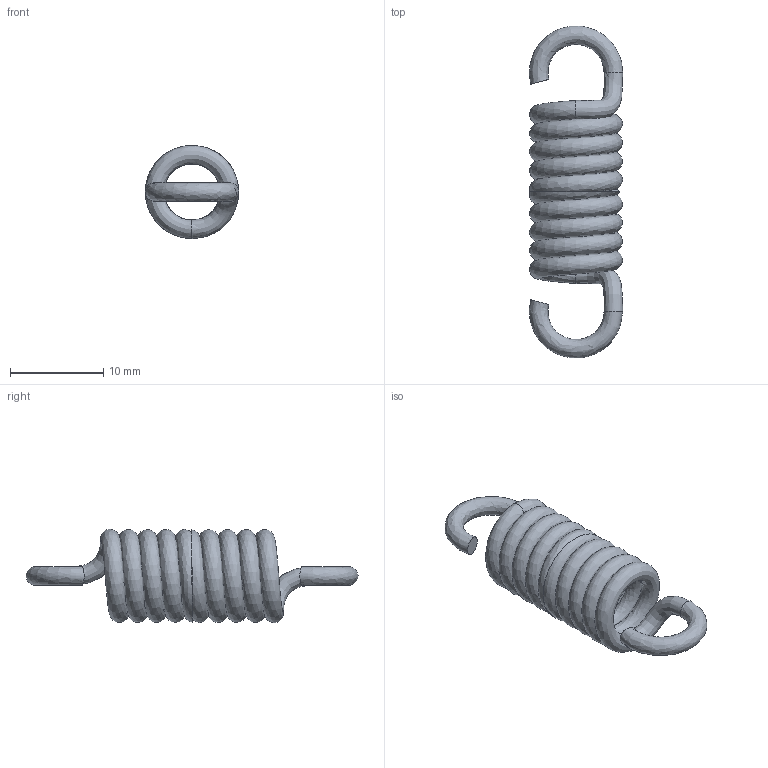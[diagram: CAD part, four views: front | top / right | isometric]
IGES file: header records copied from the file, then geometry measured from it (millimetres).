
Global section: file name: T21600; native system: Autodesk Inventor 2026; preprocessor: unknown; author: J. Iwanek; date: 20261005.101824; units: millimetre
Bounding box: 10 x 35.57 x 10 mm (x, y, z)
Volume: 835.3 mm3; surface area: 1682.3 mm2
Topology: 1 solids, 1 shells, 10 faces, 32 edges, 20 vertices
Faces by surface type: bspline 10
